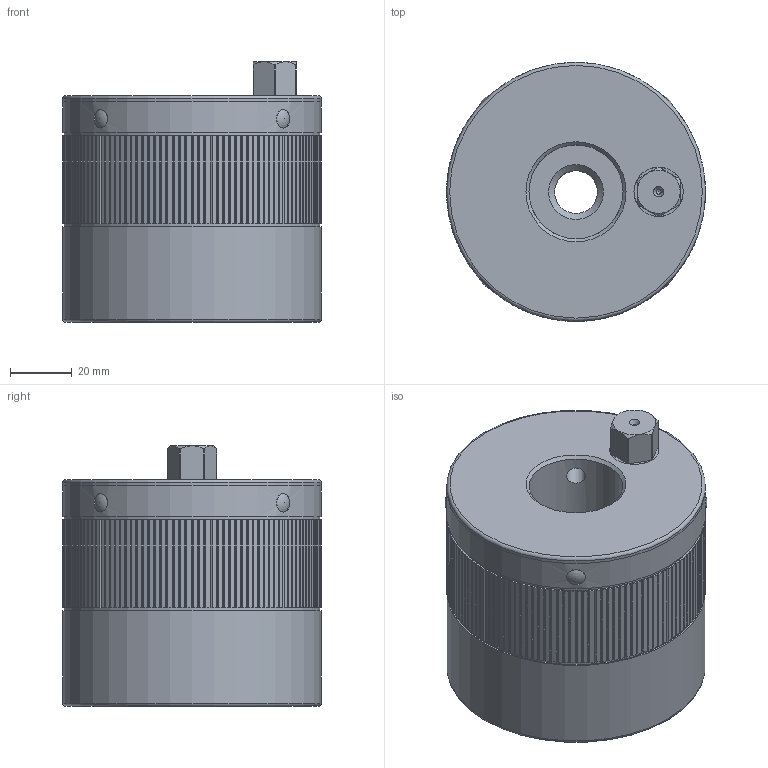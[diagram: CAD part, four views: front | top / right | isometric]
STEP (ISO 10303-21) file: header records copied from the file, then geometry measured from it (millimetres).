
FILE_DESCRIPTION(/* description */ ('Unknown','CAx-IF Rec.Pracs.---Representation and Presentation of Product Manufacturing Information (PMI)---4.0---2014-10-13','CAx-IF Rec.Pracs.---3D Tessellated Geometry---0.4---2014-09-14','2;1'),/* implementation_level */ '2;1');
FILE_NAME(/* name */ 'MDA 120_SW14_M16',/* time_stamp */ '2023-09-14T12:56:46+02:00',/* author */ ('Unknown'),/* organization */ ('Unknown'),/* preprocessor_version */ 'ST-DEVELOPER v18.102',/* originating_system */ 'Solid Edge',/* authorisation */ 'Unknown');
FILE_SCHEMA (('AP242_MANAGED_MODEL_BASED_3D_ENGINEERING_MIM_LF { 1 0 10303 442 1 1 4 }'));
Length unit declared in the file: millimetre
Products named in the file (7): 05933047; 43733046; 42231915; 46432086; KT100003; KT101191; 46331545
Assembly tree (9 placements, depth 2):
  05933047
    43733046
    42231915
    46432086
    KT100003  x4
    KT101191
    46331545
Bounding box: 84 x 84 x 84.5 mm (x, y, z)
Volume: 360603 mm3; surface area: 106290.9 mm2
Topology: 9 solids, 9 shells, 511 faces, 1439 edges, 949 vertices
Faces by surface type: plane 290, cylinder 167, cone 30, torus 10, sphere 8, bspline 6
Full cylindrical faces by diameter (mm): 1.6 x2, 6 x12, 13.835 x1, 16 x2, 16.5 x1, 30.5 x1, 48 x3, 66.2 x1, 71 x1, 74 x1, 76.5 x1, 76.9 x1, 77 x3, 83 x2, 84 x3
Entity records: 16351 total; most frequent: CARTESIAN_POINT 3353, DIRECTION 2638, ORIENTED_EDGE 2630, EDGE_CURVE 1315, LINE 918, VECTOR 918, VERTEX_POINT 911, AXIS2_PLACEMENT_3D 860
